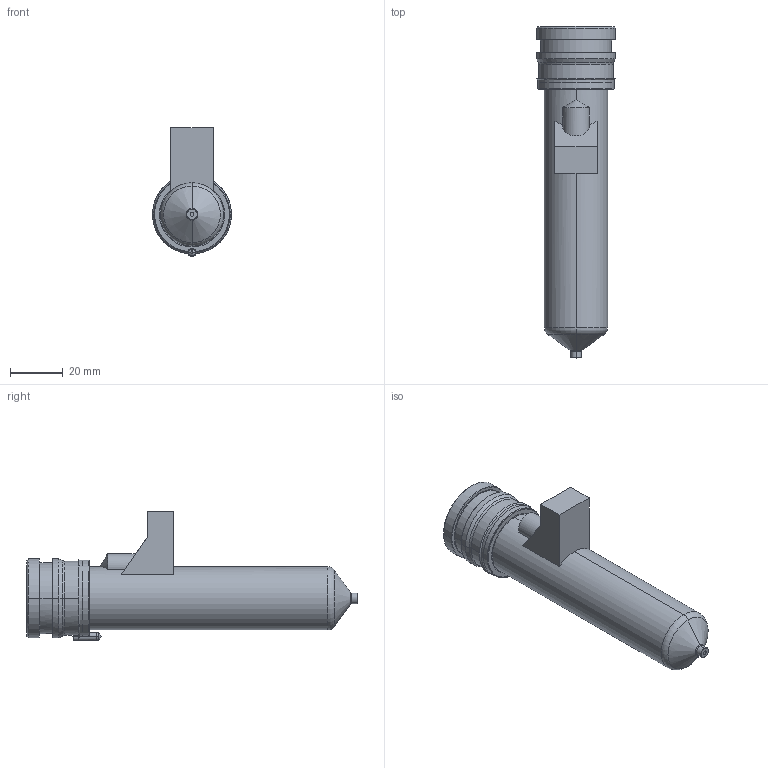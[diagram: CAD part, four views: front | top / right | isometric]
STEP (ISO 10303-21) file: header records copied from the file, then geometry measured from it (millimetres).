
FILE_DESCRIPTION((''),'2;1');
FILE_NAME('MPN-10-29-VP4-106-M','2026-02-05T12:58:50',('UPTIO'),('Thermoplay S.p.A.'),'CREO PARAMETRIC BY PTC INC, 2023494','CREO PARAMETRIC BY PTC INC, 2023494','');
FILE_SCHEMA(('CONFIG_CONTROL_DESIGN','SHAPE_APPEARANCE_LAYERS_GROUPS'));
Length unit declared in the file: millimetre
Products named in the file (1): MPN-10-29-VP4-106-M
Bounding box: 30 x 126.1 x 49 mm (x, y, z)
Volume: 40097.7 mm3; surface area: 41372 mm2
Topology: 3 solids, 5 shells, 572 faces, 1476 edges, 909 vertices
Faces by surface type: cylinder 177, plane 158, bspline 92, torus 69, cone 66, sphere 6, extrusion 4
Entity records: 28607 total; most frequent: CARTESIAN_POINT 12227, ORIENTED_EDGE 2938, DIRECTION 2622, EDGE_CURVE 1469, AXIS2_PLACEMENT_3D 1037, VERTEX_POINT 909, EDGE_LOOP 600, FACE_OUTER_BOUND 572
